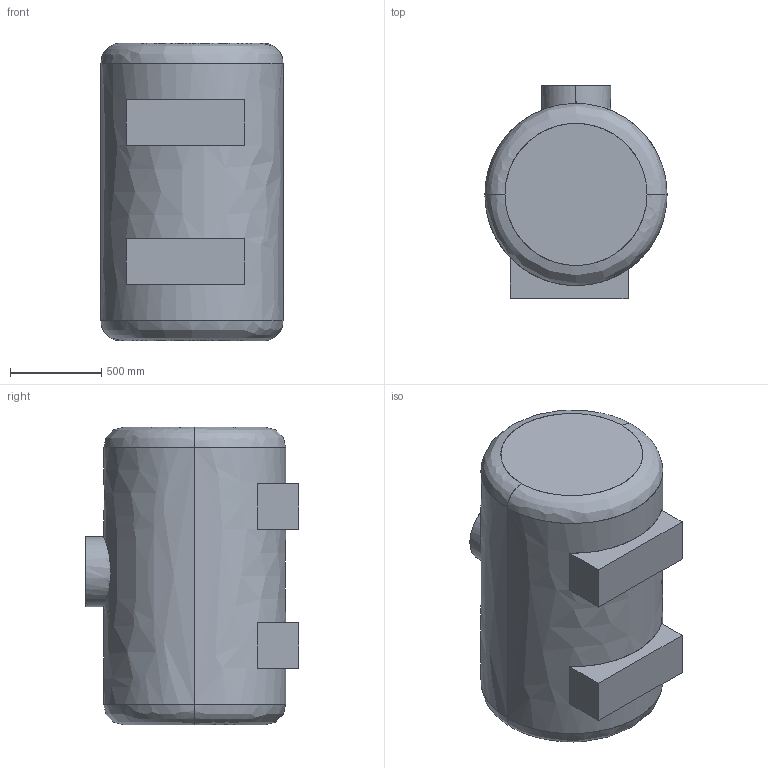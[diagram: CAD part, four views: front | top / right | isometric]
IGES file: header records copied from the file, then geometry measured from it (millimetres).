
Start section: SolidWorks IGES file using analytic representation for surfaces
Global section: file name: C:\Documents and Settings\Pc\Escritorio\Modelos 3D\Capítulo 8 (Recipientes a presión)\PRACTICAS\P-18.IGS; native system: SolidWorks 2010; preprocessor: SolidWorks 2010; author: Pc; date: 100623.114621; units: millimetre
Bounding box: 1000 x 1170 x 1633 mm (x, y, z)
Surface area: 12457968.5 mm2 (no closed solid volume)
Topology: 0 solids, 0 shells, 34 faces, 1123 edges, 1123 vertices
Faces by surface type: bspline 23, revolution 11
